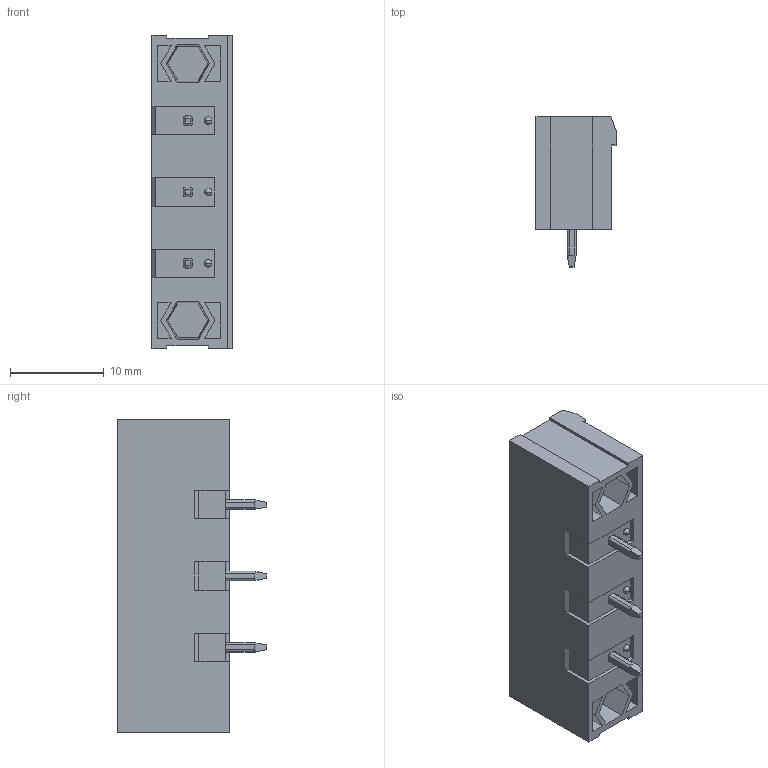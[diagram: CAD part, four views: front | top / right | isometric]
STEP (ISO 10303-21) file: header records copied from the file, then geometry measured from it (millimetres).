
FILE_DESCRIPTION((''),'2;1');
FILE_NAME('3','2019-04-09T',('zhenbing.lai'),(''),'CREO PARAMETRIC BY PTC INC, 2016260','CREO PARAMETRIC BY PTC INC, 2016260','');
FILE_SCHEMA(('CONFIG_CONTROL_DESIGN'));
Length unit declared in the file: millimetre
Products named in the file (1): 3
Bounding box: 8.55 x 16 x 33.44 mm (x, y, z)
Volume: 2157.9 mm3; surface area: 2430.1 mm2
Topology: 1 solids, 1 shells, 215 faces, 577 edges, 375 vertices
Faces by surface type: plane 175, cylinder 27, cone 7, sphere 6
Entity records: 6780 total; most frequent: CARTESIAN_POINT 1449, ORIENTED_EDGE 1142, DIRECTION 1000, EDGE_CURVE 571, VECTOR 464, LINE 464, VERTEX_POINT 375, AXIS2_PLACEMENT_3D 268
